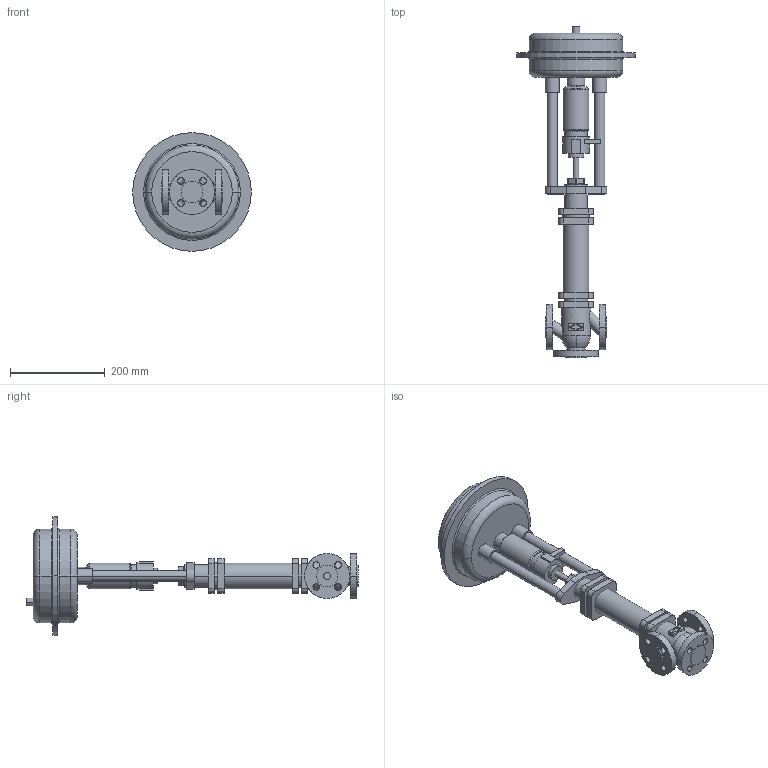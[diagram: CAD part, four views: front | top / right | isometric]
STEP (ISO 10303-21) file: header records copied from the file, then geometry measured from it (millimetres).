
FILE_DESCRIPTION(('OneSpaceDesigner STEP Export'),'2;1');
FILE_NAME('c000000718.stp','2006-09-20T11:13:28',(''),(''),'OneSpace Designer STEP processor for AP214 (Solid Model)','OneSpace Designer 13.20A 18-Aug-2005 (C) CoCreate Software GmbH','');
FILE_SCHEMA(('AUTOMOTIVE_DESIGN { 1 0 10303 214 1 1 1 1 }'));
Length unit declared in the file: millimetre
Products named in the file (2): 1; 2
Bounding box: 250 x 700 x 250 mm (x, y, z)
Volume: 4900337.4 mm3; surface area: 380625.5 mm2
Topology: 2 solids, 2 shells, 242 faces, 591 edges, 388 vertices
Faces by surface type: cylinder 118, plane 102, torus 18, cone 4
Entity records: 6601 total; most frequent: CARTESIAN_POINT 1224, ORIENTED_EDGE 1182, DIRECTION 1012, EDGE_CURVE 591, VERTEX_POINT 388, AXIS2_PLACEMENT_3D 361, EDGE_LOOP 301, VECTOR 290
